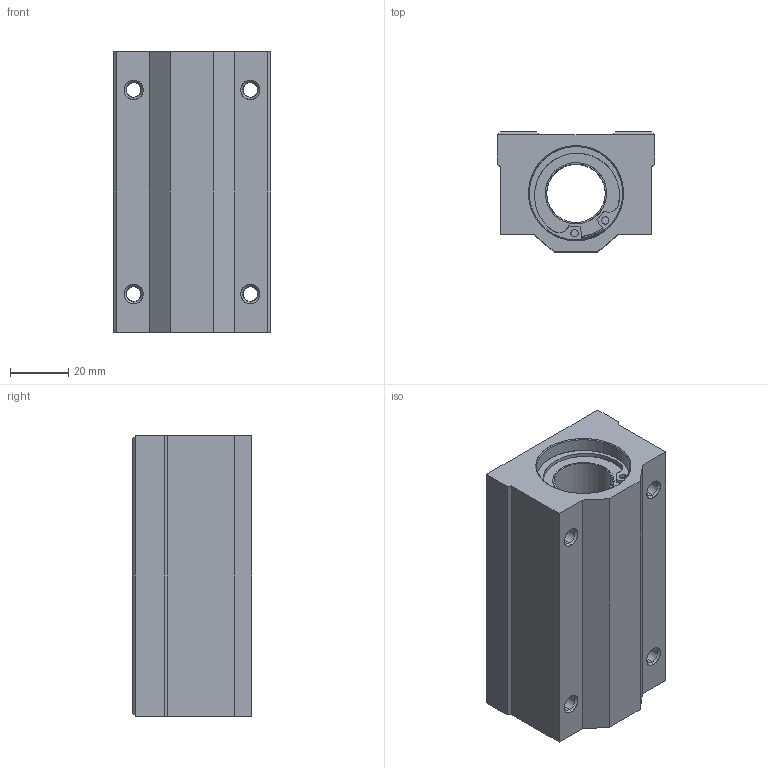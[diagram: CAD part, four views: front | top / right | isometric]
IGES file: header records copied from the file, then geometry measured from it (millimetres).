
Start section: SolidWorks IGES file using analytic representation for surfaces
Global section: file name: D:\SOLIDWORKS PROEKTI\freelance cnc cat\VTORA SERIJA\SC-LUU\SC20LUU.IGS; native system: SolidWorks 2016; preprocessor: SolidWorks 2016; author: User; date: 170806.102643; units: millimetre
Bounding box: 54 x 41 x 96 mm (x, y, z)
Surface area: 49594.6 mm2 (no closed solid volume)
Topology: 0 solids, 0 shells, 452 faces, 11930 edges, 14272 vertices
Faces by surface type: bspline 302, revolution 150
